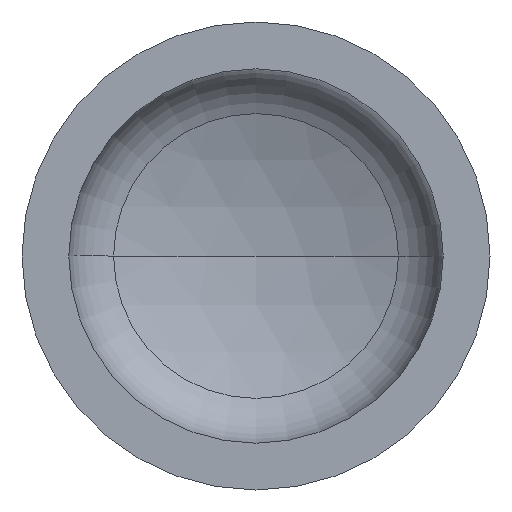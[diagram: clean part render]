
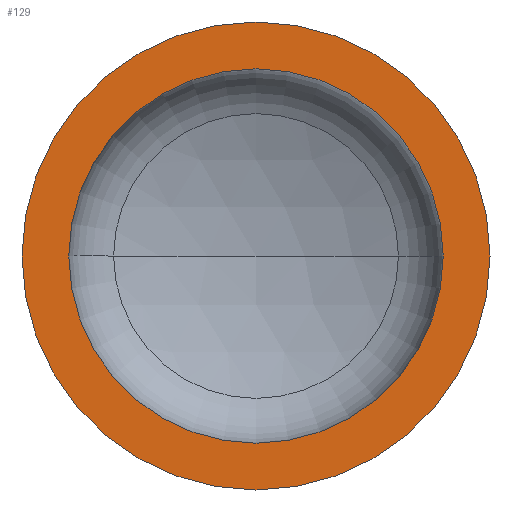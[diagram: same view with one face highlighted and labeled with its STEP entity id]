
A CAD part, front view. The second image highlights one B-rep face of the part: STEP entity #129.
In plain terms, the highlighted planar face has unit normal (0, -1, 0).
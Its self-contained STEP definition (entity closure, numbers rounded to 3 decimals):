
#2 = ORIENTED_EDGE ( 'NONE', *, *, #363, .F. ) ;
#8 = AXIS2_PLACEMENT_3D ( 'NONE', #42, #288, #185 ) ;
#14 = EDGE_LOOP ( 'NONE', ( #49, #101 ) ) ;
#35 = AXIS2_PLACEMENT_3D ( 'NONE', #277, #391, #302 ) ;
#39 = VERTEX_POINT ( 'NONE', #396 ) ;
#42 = CARTESIAN_POINT ( 'NONE',  ( 0., 0., 0. ) ) ;
#49 = ORIENTED_EDGE ( 'NONE', *, *, #382, .T. ) ;
#53 = CIRCLE ( 'NONE', #144, 440. ) ;
#57 = EDGE_LOOP ( 'NONE', ( #125, #2 ) ) ;
#89 = VERTEX_POINT ( 'NONE', #328 ) ;
#95 = FACE_BOUND ( 'NONE', #57, .T. ) ;
#98 = VERTEX_POINT ( 'NONE', #291 ) ;
#101 = ORIENTED_EDGE ( 'NONE', *, *, #178, .T. ) ;
#125 = ORIENTED_EDGE ( 'NONE', *, *, #181, .F. ) ;
#129 = ADVANCED_FACE ( 'NONE', ( #95, #270 ), #330, .F. ) ;
#130 = CIRCLE ( 'NONE', #35, 440. ) ;
#144 = AXIS2_PLACEMENT_3D ( 'NONE', #211, #206, #207 ) ;
#147 = AXIS2_PLACEMENT_3D ( 'NONE', #298, #297, #223 ) ;
#157 = AXIS2_PLACEMENT_3D ( 'NONE', #324, #321, #320 ) ;
#160 = VERTEX_POINT ( 'NONE', #317 ) ;
#178 = EDGE_CURVE ( 'NONE', #160, #98, #202, .T. ) ;
#181 = EDGE_CURVE ( 'NONE', #39, #89, #53, .T. ) ;
#185 = DIRECTION ( 'NONE',  ( 1., 0., 0. ) ) ;
#202 = CIRCLE ( 'NONE', #147, 550. ) ;
#206 = DIRECTION ( 'NONE',  ( 0., -1., 0. ) ) ;
#207 = DIRECTION ( 'NONE',  ( 1., 0., 0. ) ) ;
#211 = CARTESIAN_POINT ( 'NONE',  ( 0., 0., 0. ) ) ;
#223 = DIRECTION ( 'NONE',  ( 1., 0., 0. ) ) ;
#267 = CIRCLE ( 'NONE', #8, 550. ) ;
#270 = FACE_OUTER_BOUND ( 'NONE', #14, .T. ) ;
#277 = CARTESIAN_POINT ( 'NONE',  ( 0., 0., 0. ) ) ;
#288 = DIRECTION ( 'NONE',  ( 0., -1., 0. ) ) ;
#291 = CARTESIAN_POINT ( 'NONE',  ( 550., 0., 0. ) ) ;
#297 = DIRECTION ( 'NONE',  ( 0., -1., 0. ) ) ;
#298 = CARTESIAN_POINT ( 'NONE',  ( 0., 0., 0. ) ) ;
#302 = DIRECTION ( 'NONE',  ( 1., 0., 0. ) ) ;
#317 = CARTESIAN_POINT ( 'NONE',  ( -550., 0., 0. ) ) ;
#320 = DIRECTION ( 'NONE',  ( -1., 0., 0. ) ) ;
#321 = DIRECTION ( 'NONE',  ( 0., 1., 0. ) ) ;
#324 = CARTESIAN_POINT ( 'NONE',  ( -550., 0., 0. ) ) ;
#328 = CARTESIAN_POINT ( 'NONE',  ( -440., 0., 0. ) ) ;
#330 = PLANE ( 'NONE',  #157 ) ;
#363 = EDGE_CURVE ( 'NONE', #89, #39, #130, .T. ) ;
#382 = EDGE_CURVE ( 'NONE', #98, #160, #267, .T. ) ;
#391 = DIRECTION ( 'NONE',  ( 0., -1., 0. ) ) ;
#396 = CARTESIAN_POINT ( 'NONE',  ( 440., 0., 0. ) ) ;
